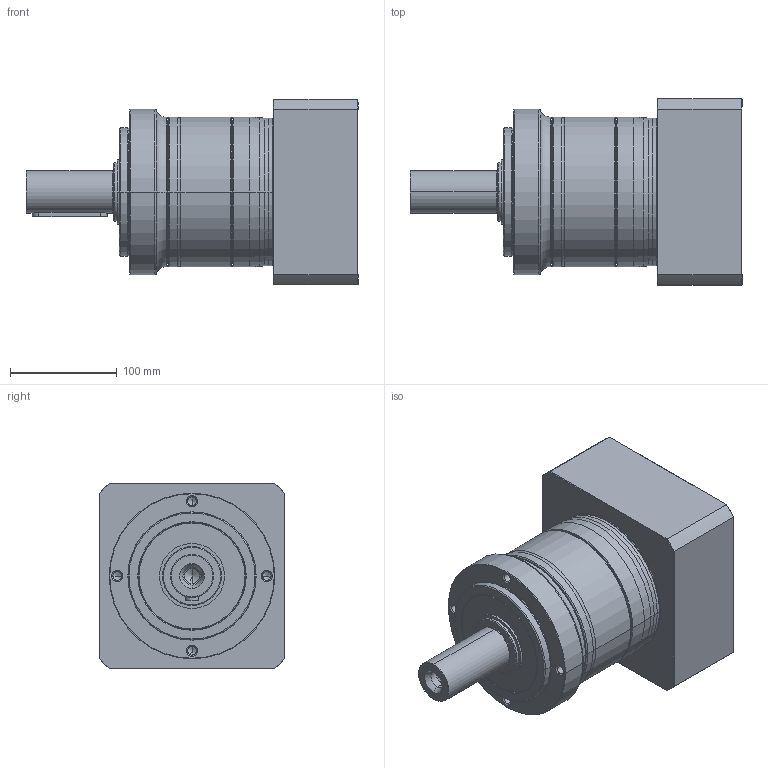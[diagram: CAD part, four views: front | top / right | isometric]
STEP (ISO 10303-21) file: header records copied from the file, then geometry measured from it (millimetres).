
FILE_DESCRIPTION((''),'2;1');
FILE_NAME('PE2-155_1ST_38-P0411900101_ASM','2017-05-31T',('d01943'),(''),'PRO/ENGINEER BY PARAMETRIC TECHNOLOGY CORPORATION, 2008410','PRO/ENGINEER BY PARAMETRIC TECHNOLOGY CORPORATION, 2008410','');
FILE_SCHEMA(('CONFIG_CONTROL_DESIGN'));
Length unit declared in the file: millimetre
Products named in the file (9): P1323510001; P0250500001; P1324500501; P0350501001; P0941505001; P0503900010; P0411900101; P1702600001; PE2-155_1ST_38-P0411900101_ASM
Assembly tree (8 placements, depth 2):
  PE2-155_1ST_38-P0411900101_ASM
    P1323510001
    P0250500001
    P1324500501
    P0350501001
    P0941505001
    P0503900010
    P0411900101
    P1702600001
Bounding box: 311 x 174 x 174 mm (x, y, z)
Volume: 3693776 mm3; surface area: 411798.9 mm2
Topology: 8 solids, 8 shells, 465 faces, 1019 edges, 584 vertices
Faces by surface type: cone 138, cylinder 136, torus 96, plane 77, bspline 18
Entity records: 17353 total; most frequent: CARTESIAN_POINT 6933, DIRECTION 2373, ORIENTED_EDGE 1974, AXIS2_PLACEMENT_3D 1019, EDGE_CURVE 987, VERTEX_POINT 584, CIRCLE 555, EDGE_LOOP 527
